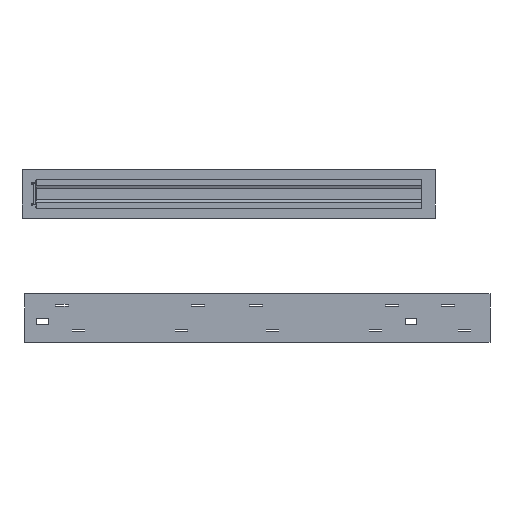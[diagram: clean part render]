
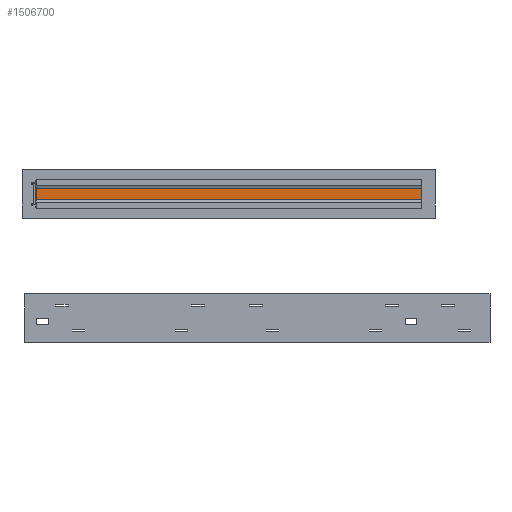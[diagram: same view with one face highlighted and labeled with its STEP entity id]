
A CAD part, top view. The second image highlights one B-rep face of the part: STEP entity #1506700.
In plain terms, the highlighted planar face has unit normal (0, 0, 1).
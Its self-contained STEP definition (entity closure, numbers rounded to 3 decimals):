
#1457750=CARTESIAN_POINT('',(-8.,419.619,8.));
#1457760=VERTEX_POINT('',#1457750);
#1457790=CARTESIAN_POINT('',(-8.,0.,8.));
#1457800=DIRECTION('',(0.,-1.,0.));
#1457810=VECTOR('',#1457800,1.);
#1457820=LINE('',#1457790,#1457810);
#1457830=CARTESIAN_POINT('',(-8.,-139.213,8.));
#1457840=VERTEX_POINT('',#1457830);
#1457850=EDGE_CURVE('',#1457760,#1457840,#1457820,.T.);
#1506400=CARTESIAN_POINT('',(0.,138.3,8.));
#1506410=DIRECTION('',(0.,0.,1.));
#1506420=DIRECTION('',(1.,0.,0.));
#1506430=AXIS2_PLACEMENT_3D('',#1506400,#1506410,#1506420);
#1506440=PLANE('',#1506430);
#1506450=ORIENTED_EDGE('',*,*,#1457850,.T.);
#1506460=CARTESIAN_POINT('',(0.,419.619,8.));
#1506470=DIRECTION('',(-1.,0.,0.));
#1506480=VECTOR('',#1506470,1.);
#1506490=LINE('',#1506460,#1506480);
#1506500=CARTESIAN_POINT('',(8.,419.619,8.));
#1506510=VERTEX_POINT('',#1506500);
#1506520=EDGE_CURVE('',#1506510,#1457760,#1506490,.T.);
#1506530=ORIENTED_EDGE('',*,*,#1506520,.T.);
#1506540=CARTESIAN_POINT('',(8.,0.,8.));
#1506550=DIRECTION('',(0.,1.,0.));
#1506560=VECTOR('',#1506550,1.);
#1506570=LINE('',#1506540,#1506560);
#1506580=CARTESIAN_POINT('',(8.,-139.213,8.));
#1506590=VERTEX_POINT('',#1506580);
#1506600=EDGE_CURVE('',#1506590,#1506510,#1506570,.T.);
#1506610=ORIENTED_EDGE('',*,*,#1506600,.T.);
#1506620=CARTESIAN_POINT('',(0.,-139.213,8.));
#1506630=DIRECTION('',(1.,0.,0.));
#1506640=VECTOR('',#1506630,1.);
#1506650=LINE('',#1506620,#1506640);
#1506660=EDGE_CURVE('',#1457840,#1506590,#1506650,.T.);
#1506670=ORIENTED_EDGE('',*,*,#1506660,.T.);
#1506680=EDGE_LOOP('',(#1506670,#1506610,#1506530,#1506450));
#1506690=FACE_OUTER_BOUND('',#1506680,.T.);
#1506700=ADVANCED_FACE('',(#1506690),#1506440,.T.);
